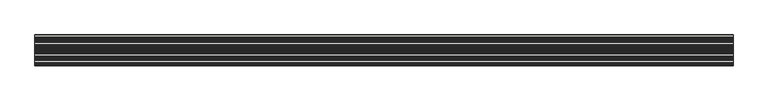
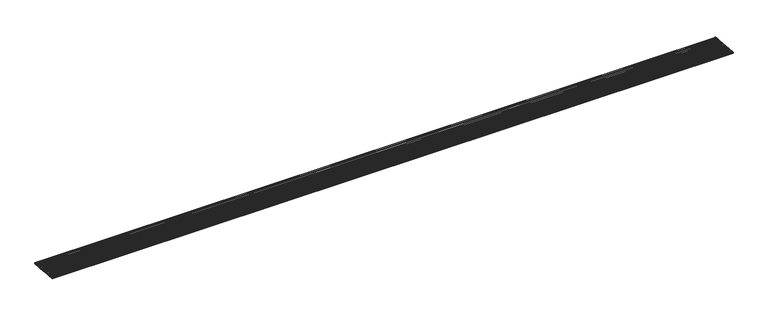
"""IFC4 building model written with IfcOpenShell, lengths in millimetres: slab geometry, ROSA GRES_001 (2 filas) : Piezas 001_Aqua_Blanco_Anti-Slip."""

from ifc_helpers import new_model, si_unit, point, frame, frame_2d, origin, place, context, project, spatial, polyline, circle_curve, trimmed, segment, composite_curve, outline, extrude, source, transform, mapped, element, save


def slab_3d5daa41(model_context):
    return source(origin(), model_context, "Body", "SweptSolid", [
        extrude(outline(polyline([(59.4997999, 0.0), (59.4997999, -5498.835331), (-59.4998, -5498.835331), (-59.4998, 0.0), (59.4997999, 0.0)])), frame((5498.835331, -183.3614376, 204.5238637), z_axis=(0.0, 0.08112705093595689, 0.9967037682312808), x_axis=(0.0, -0.9967037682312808, 0.08112705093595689)), (0.0, 0.0, 1.0), 5.0),
        extrude(outline(polyline([(59.4998, 0.0), (59.4998, -5498.835331), (-59.4997999, -5498.835331), (-59.4997999, 0.0), (59.4998, 0.0)])), frame((5498.835331, -307.9490099, 214.6647126), z_axis=(0.0, 0.08112705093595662, 0.9967037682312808), x_axis=(0.0, -0.9967037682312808, 0.08112705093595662)), (0.0, 0.0, 1.0), 5.0),
        extrude(outline(composite_curve([segment(polyline([(-242.2594772, 214.3344258), (-242.046278, 216.9537305)]), True, "CONTINUOUS"), segment(trimmed(circle_curve(frame_2d((-241.5926747, 222.5265709)), 5.5912705), [point((-242.046278, 216.9537305))], [point((-237.6514463, 218.5605875))], True, "CARTESIAN"), True, "CONTINUOUS"), segment(trimmed(circle_curve(frame_2d((-233.1207211, 221.8369933)), 5.5912705), [point((-237.6514463, 218.5605875))], [point((-229.1794928, 217.8710099))], True, "CARTESIAN"), True, "CONTINUOUS"), segment(trimmed(circle_curve(frame_2d((-224.6487676, 221.1474157)), 5.5912705), [point((-229.1794928, 217.8710099))], [point((-220.7075392, 217.1814322))], True, "CARTESIAN"), True, "CONTINUOUS"), segment(trimmed(circle_curve(frame_2d((-216.176814, 220.457838)), 5.5912705), [point((-220.7075392, 217.1814322))], [point((-212.2355856, 216.4918546))], True, "CARTESIAN"), True, "CONTINUOUS"), segment(trimmed(circle_curve(frame_2d((-207.7048605, 219.7682604)), 5.5912705), [point((-212.2355856, 216.4918546))], [point((-203.7636321, 215.802277))], True, "CARTESIAN"), True, "CONTINUOUS"), segment(trimmed(circle_curve(frame_2d((-199.2329069, 219.0786828)), 5.5912705), [point((-203.7636321, 215.802277))], [point((-195.2916785, 215.1126994))], True, "CARTESIAN"), True, "CONTINUOUS"), segment(trimmed(circle_curve(frame_2d((-190.7609534, 218.3891052)), 5.5912705), [point((-195.2916785, 215.1126994))], [point((-186.819725, 214.4231218))], True, "CARTESIAN"), True, "CONTINUOUS"), segment(trimmed(circle_curve(frame_2d((-182.2889998, 217.6995276)), 5.5912705), [point((-186.819725, 214.4231218))], [point((-178.3477714, 213.7335442))], True, "CARTESIAN"), True, "CONTINUOUS"), segment(trimmed(circle_curve(frame_2d((-173.8170463, 217.00995)), 5.5912705), [point((-178.3477714, 213.7335442))], [point((-169.8758179, 213.0439666))], True, "CARTESIAN"), True, "CONTINUOUS"), segment(trimmed(circle_curve(frame_2d((-165.3450927, 216.3203723)), 5.5912705), [point((-169.8758179, 213.0439666))], [point((-161.4038643, 212.3543889))], True, "CARTESIAN"), True, "CONTINUOUS"), segment(trimmed(circle_curve(frame_2d((-156.8731392, 215.6307947)), 5.5912705), [point((-161.4038643, 212.3543889))], [point((-152.9319108, 211.6648113))], True, "CARTESIAN"), True, "CONTINUOUS"), segment(trimmed(circle_curve(frame_2d((-148.4011856, 214.9412171)), 5.5912705), [point((-152.9319108, 211.6648113))], [point((-144.4599572, 210.9752337))], True, "CARTESIAN"), True, "CONTINUOUS"), segment(trimmed(circle_curve(frame_2d((-139.929232, 214.2516395)), 5.5912705), [point((-144.4599572, 210.9752337))], [point((-135.9880037, 210.2856561))], True, "CARTESIAN"), True, "CONTINUOUS"), segment(trimmed(circle_curve(frame_2d((-131.4572785, 213.5620619)), 5.5912705), [point((-135.9880037, 210.2856561))], [point((-127.5160501, 209.5960785))], True, "CARTESIAN"), True, "CONTINUOUS"), segment(trimmed(circle_curve(frame_2d((-122.9853249, 212.8724843)), 5.5912705), [point((-127.5160501, 209.5960785))], [point((-123.4389282, 207.2996439))], True, "CARTESIAN"), True, "CONTINUOUS"), segment(polyline([(-123.4389282, 207.2996439), (-123.6521274, 204.6803392), (-242.2594772, 214.3344258)]), True, "CONTINUOUS")], self_intersect=False)), frame((0.0, 0.0, 0.0), z_axis=(1.0, 0.0, 0.0), x_axis=(0.0, 1.0, 0.0)), (0.0, 0.0, 1.0), 5498.835331),
        extrude(outline(composite_curve([segment(polyline([(-366.8470495, 224.4752747), (-366.6338503, 227.0945794)]), True, "CONTINUOUS"), segment(trimmed(circle_curve(frame_2d((-366.180247, 232.6674198)), 5.5912705), [point((-366.6338503, 227.0945794))], [point((-362.2390187, 228.7014364))], True, "CARTESIAN"), True, "CONTINUOUS"), segment(trimmed(circle_curve(frame_2d((-357.7082935, 231.9778422)), 5.5912705), [point((-362.2390187, 228.7014364))], [point((-353.7670651, 228.0118588))], True, "CARTESIAN"), True, "CONTINUOUS"), segment(trimmed(circle_curve(frame_2d((-349.2363399, 231.2882646)), 5.5912705), [point((-353.7670651, 228.0118588))], [point((-345.2951115, 227.3222812))], True, "CARTESIAN"), True, "CONTINUOUS"), segment(trimmed(circle_curve(frame_2d((-340.7643864, 230.5986869)), 5.5912705), [point((-345.2951115, 227.3222812))], [point((-336.823158, 226.6327035))], True, "CARTESIAN"), True, "CONTINUOUS"), segment(trimmed(circle_curve(frame_2d((-332.2924328, 229.9091093)), 5.5912705), [point((-336.823158, 226.6327035))], [point((-328.3512044, 225.9431259))], True, "CARTESIAN"), True, "CONTINUOUS"), segment(trimmed(circle_curve(frame_2d((-323.8204793, 229.2195317)), 5.5912705), [point((-328.3512044, 225.9431259))], [point((-319.8792509, 225.2535483))], True, "CARTESIAN"), True, "CONTINUOUS"), segment(trimmed(circle_curve(frame_2d((-315.3485257, 228.5299541)), 5.5912705), [point((-319.8792509, 225.2535483))], [point((-311.4072973, 224.5639707))], True, "CARTESIAN"), True, "CONTINUOUS"), segment(trimmed(circle_curve(frame_2d((-306.8765722, 227.8403765)), 5.5912705), [point((-311.4072973, 224.5639707))], [point((-302.9353438, 223.8743931))], True, "CARTESIAN"), True, "CONTINUOUS"), segment(trimmed(circle_curve(frame_2d((-298.4046186, 227.1507989)), 5.5912705), [point((-302.9353438, 223.8743931))], [point((-294.4633902, 223.1848155))], True, "CARTESIAN"), True, "CONTINUOUS"), segment(trimmed(circle_curve(frame_2d((-289.9326651, 226.4612213)), 5.5912705), [point((-294.4633902, 223.1848155))], [point((-285.9914367, 222.4952379))], True, "CARTESIAN"), True, "CONTINUOUS"), segment(trimmed(circle_curve(frame_2d((-281.4607115, 225.7716436)), 5.5912705), [point((-285.9914367, 222.4952379))], [point((-277.5194831, 221.8056602))], True, "CARTESIAN"), True, "CONTINUOUS"), segment(trimmed(circle_curve(frame_2d((-272.9887579, 225.082066)), 5.5912705), [point((-277.5194831, 221.8056602))], [point((-269.0475296, 221.1160826))], True, "CARTESIAN"), True, "CONTINUOUS"), segment(trimmed(circle_curve(frame_2d((-264.5168044, 224.3924884)), 5.5912705), [point((-269.0475296, 221.1160826))], [point((-260.575576, 220.426505))], True, "CARTESIAN"), True, "CONTINUOUS"), segment(trimmed(circle_curve(frame_2d((-256.0448508, 223.7029108)), 5.5912705), [point((-260.575576, 220.426505))], [point((-252.1036225, 219.7369274))], True, "CARTESIAN"), True, "CONTINUOUS"), segment(trimmed(circle_curve(frame_2d((-247.5728973, 223.0133332)), 5.5912705), [point((-252.1036225, 219.7369274))], [point((-248.0265006, 217.4404928))], True, "CARTESIAN"), True, "CONTINUOUS"), segment(polyline([(-248.0265006, 217.4404928), (-248.2396998, 214.8211881), (-366.8470495, 224.4752747)]), True, "CONTINUOUS")], self_intersect=False)), frame((0.0, 0.0, 0.0), z_axis=(1.0, 0.0, 0.0), x_axis=(0.0, 1.0, 0.0)), (0.0, 0.0, 1.0), 5498.835331),
    ])


if __name__ == "__main__":
    model = new_model("IFC4")
    model_context = context("Model", 3, world=origin())
    ifc_project = project(units=[si_unit("LENGTHUNIT", "METRE", prefix="MILLI")], contexts=[model_context])
    site = spatial("IfcSite", under=ifc_project)
    building = spatial("IfcBuilding", under=site)
    placement = place(None, origin())
    slab_shape = slab_3d5daa41(model_context)
    element("IfcSlab", 1, ObjectType="ROSA GRES_001 (2 filas) : Piezas 001_Aqua_Blanco_Anti-Slip", at=placement, inside=building, context=model_context, shape_type="MappedRepresentation", body=[
        mapped(slab_shape, transform((0.0, 0.0, 0.0), x_axis=(1.0, 0.0, 0.0), y_axis=(0.0, 1.0, 0.0), z_axis=(0.0, 0.0, 1.0))),
    ])
    save(model, "model.ifc")
